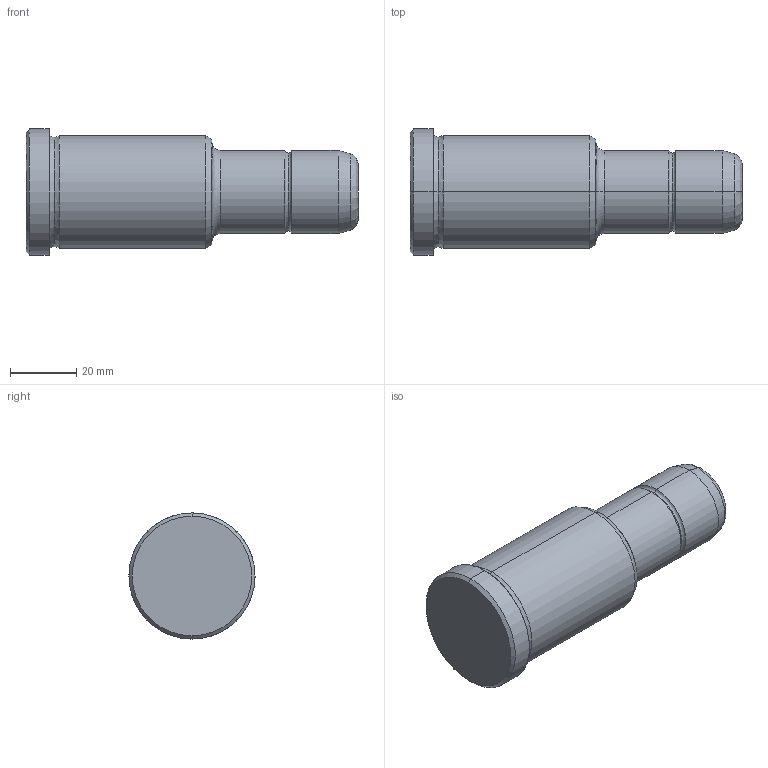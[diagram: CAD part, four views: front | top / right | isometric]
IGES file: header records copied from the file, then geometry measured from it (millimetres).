
Start section: START RECORD GO HERE.
Global section: file name: 351-25X56X100.igs; native system: DASSAULT SYSTEMES CATIA V5 R20 - www.3ds.com; preprocessor: CATIA Version 5 Release 20 ; author: Utente; organization: NB04-ASUS; date: 20210907.122131; units: millimetre
Bounding box: 100 x 38 x 38 mm (x, y, z)
Surface area: 11432.3 mm2 (no closed solid volume)
Topology: 0 solids, 0 shells, 30 faces, 172 edges, 172 vertices
Faces by surface type: revolution 26, plane 4
